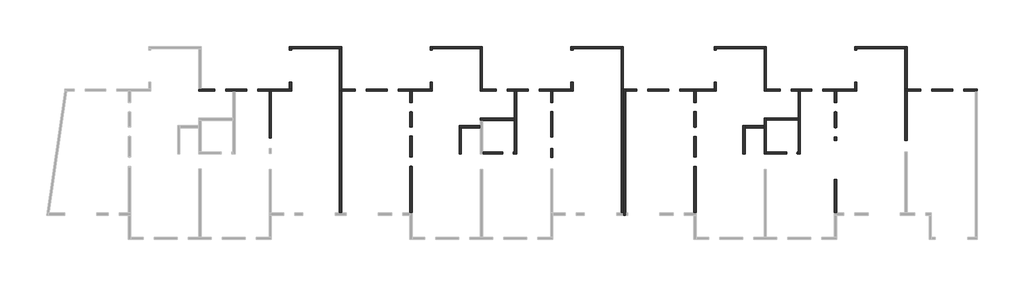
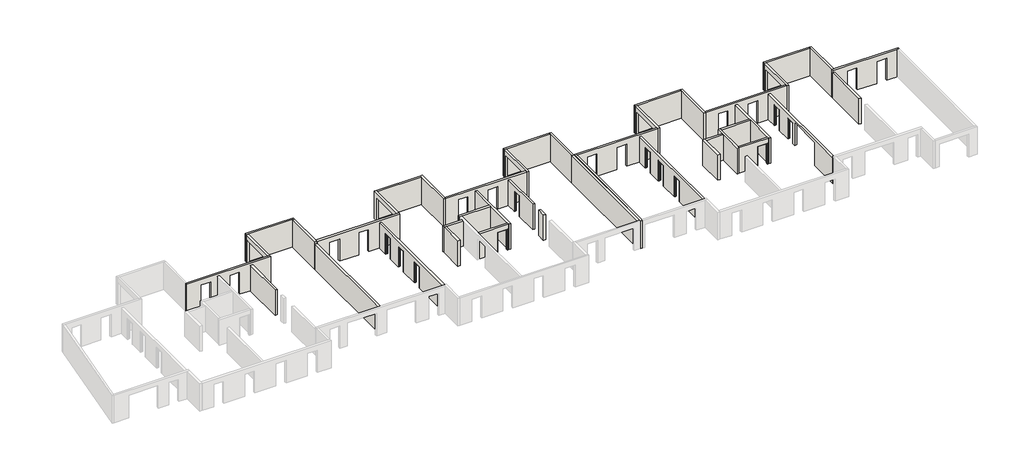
# One storey, part 2 of 2: 42 walls, 11 doors.
"""IFC4 building model written with IfcOpenShell, lengths in millimetres."""

from ifc_helpers import new_model, si_unit, frame, origin, place, context, project, spatial, polyline, outline, extrude, faceted_brep, transform, mapped, element, save
from components import door_48b161e2, door_a0d7bfd5

model = new_model("IFC4")

# Units and contexts
model_context = context("Model", 3, world=origin())
ifc_project = project(units=[si_unit("LENGTHUNIT", "METRE", prefix="MILLI")], contexts=[model_context])

# Site, building, storey
site = spatial("IfcSite", under=ifc_project)
building = spatial("IfcBuilding", under=site)
storey = spatial("IfcBuildingStorey", under=building, Name="Niv +1", Elevation=2700.0)

# Doors
placement = place(None, origin())
door_shape = door_48b161e2(model_context)
element("IfcDoor", 1, ObjectType="FREYS HUISSERIE A BANCHER : FREYS 83*2.035", at=placement, inside=storey, context=model_context, shape_type="MappedRepresentation", body=[
    mapped(door_shape, transform((-535.4687207, 4861.1247819, 2700.0), x_axis=(0.0, -1.0, 0.0), y_axis=(1.0, 0.0, 0.0), z_axis=(0.0, 0.0, 1.0))),
])
element("IfcDoor", 2, ObjectType="FREYS HUISSERIE A BANCHER : FREYS 83*2.035", at=placement, inside=storey, context=model_context, shape_type="MappedRepresentation", body=[
    mapped(door_shape, transform((-535.4687207, 2788.1542132, 2700.0), x_axis=(0.0, -1.0, 0.0), y_axis=(1.0, 0.0, 0.0), z_axis=(0.0, 0.0, 1.0))),
])
element("IfcDoor", 3, ObjectType="FREYS HUISSERIE A BANCHER : FREYS 83*2.035", at=placement, inside=storey, context=model_context, shape_type="MappedRepresentation", body=[
    mapped(door_shape, transform((-535.4687207, 211.1107168, 2700.0), x_axis=(0.0, -1.0, 0.0), y_axis=(1.0, 0.0, 0.0), z_axis=(0.0, 0.0, 1.0))),
])
element("IfcDoor", 4, ObjectType="FREYS HUISSERIE A BANCHER : FREYS 83*2.035", at=placement, inside=storey, context=model_context, shape_type="MappedRepresentation", body=[
    mapped(door_shape, transform((23664.5564317, 4876.1247664, 2700.0), x_axis=(0.0, -1.0, 0.0), y_axis=(1.0, 0.0, 0.0), z_axis=(0.0, 0.0, 1.0))),
])
element("IfcDoor", 5, ObjectType="FREYS HUISSERIE A BANCHER : FREYS 83*2.035", at=placement, inside=storey, context=model_context, shape_type="MappedRepresentation", body=[
    mapped(door_shape, transform((23664.5564317, 2756.1563277, 2700.0), x_axis=(0.0, -1.0, 0.0), y_axis=(1.0, 0.0, 0.0), z_axis=(0.0, 0.0, 1.0))),
])
element("IfcDoor", 6, ObjectType="FREYS HUISSERIE A BANCHER : FREYS 83*2.035", at=placement, inside=storey, context=model_context, shape_type="MappedRepresentation", body=[
    mapped(door_shape, transform((23664.5564317, 222.4877305, 2700.0), x_axis=(0.0, 1.0, 0.0), y_axis=(-1.0, 0.0, 0.0), z_axis=(0.0, 0.0, 1.0))),
])
element("IfcDoor", 7, ObjectType="FREYS HUISSERIE A BANCHER : FREYS 83*2.035", at=placement, inside=storey, context=model_context, shape_type="MappedRepresentation", body=[
    mapped(door_shape, transform((35664.5312786, 4863.6271318, 2700.0), x_axis=(0.0, -1.0, 0.0), y_axis=(1.0, 0.0, 0.0), z_axis=(0.0, 0.0, 1.0))),
])
element("IfcDoor", 8, ObjectType="FREYS HUISSERIE A BANCHER : FREYS 83*2.035", at=placement, inside=storey, context=model_context, shape_type="MappedRepresentation", body=[
    mapped(door_shape, transform((35664.5312786, 2710.1542618, 2700.0), x_axis=(0.0, -1.0, 0.0), y_axis=(1.0, 0.0, 0.0), z_axis=(0.0, 0.0, 1.0))),
])
element("IfcDoor", 9, ObjectType="FREYS HUISSERIE A BANCHER : FREYS 83*2.035", at=placement, inside=storey, context=model_context, shape_type="MappedRepresentation", body=[
    mapped(door_shape, transform((11464.5281637, 4876.2899672, 2700.0), x_axis=(0.0, -1.0, 0.0), y_axis=(1.0, 0.0, 0.0), z_axis=(0.0, 0.0, 1.0))),
])
door_2_shape = door_a0d7bfd5(model_context)
element("IfcDoor", 10, ObjectType="FREYS HUISSERIE A BANCHER : FREYS 93*2.035", at=placement, inside=storey, context=model_context, shape_type="MappedRepresentation", body=[
    mapped(door_2_shape, transform((7719.3181732, 946.3022753, 2700.0), x_axis=(-1.0, 0.0, 0.0), y_axis=(0.0, -1.0, 0.0), z_axis=(0.0, 0.0, 1.0))),
])
element("IfcDoor", 11, ObjectType="FREYS HUISSERIE A BANCHER : FREYS 93*2.035", at=placement, inside=storey, context=model_context, shape_type="MappedRepresentation", body=[
    mapped(door_2_shape, transform((31922.0230132, 946.3174361, 2700.0), x_axis=(-1.0, 0.0, 0.0), y_axis=(0.0, -1.0, 0.0), z_axis=(0.0, 0.0, 1.0))),
])

# Walls
element("IfcWall", 12, ObjectType="FREYS voile BA C25/30 ep=18 EXT", at=placement, inside=storey, context=model_context, shape_type="Brep", body=[
    faceted_brep([(-10725.0456065, 6246.3702418, 5400.0), (-18615.4433224, 6246.3702418, 5400.0), (-18615.4433224, 6246.3702418, 2700.0), (-17275.4417331, 6246.3702418, 2700.0), (-17275.4417331, 6246.3702418, 4880.0), (-16335.4417331, 6246.3702418, 4880.0), (-16335.4417331, 6246.3702418, 2700.0), (-15715.4423564, 6246.3702418, 2700.0), (-15535.4423564, 6246.3702418, 2700.0), (-14555.4425277, 6246.3702418, 2700.0), (-14555.4425277, 6246.3702418, 4880.0), (-13615.4425277, 6246.3702418, 4880.0), (-13615.4425277, 6246.3702418, 2700.0), (-12635.4687207, 6246.3702418, 2700.0), (-12435.4687207, 6246.3702418, 2700.0), (-10725.0456065, 6246.3702418, 2700.0), (-18615.4433224, 6426.3702418, 5400.0), (-18435.4433224, 6426.3702418, 5400.0), (-10905.0456065, 6426.3702418, 5400.0), (-10725.0456065, 6426.3702418, 5400.0), (-10725.0456065, 6426.3702418, 2700.0), (-10905.0456065, 6426.3702418, 2700.0), (-13615.4425277, 6426.3702418, 2700.0), (-13615.4425277, 6426.3702418, 4880.0), (-14555.4425277, 6426.3702418, 4880.0), (-14555.4425277, 6426.3702418, 2700.0), (-16335.4417331, 6426.3702418, 2700.0), (-16335.4417331, 6426.3702418, 4880.0), (-17275.4417331, 6426.3702418, 4880.0), (-17275.4417331, 6426.3702418, 2700.0), (-18435.4433224, 6426.3702418, 2700.0), (-18615.4433224, 6426.3702418, 2700.0)], [[[0, 1, 2, 3, 4, 5, 6, 7, 8, 9, 10, 11, 12, 13, 14, 15]], [[16, 17, 18, 19, 20, 21, 22, 23, 24, 25, 26, 27, 28, 29, 30, 31]], [[2, 31, 30, 29, 3]], [[20, 15, 14, 13, 12, 22, 21]], [[6, 26, 25, 9, 8, 7]], [[1, 0, 19, 18, 17, 16]], [[2, 1, 16, 31]], [[0, 15, 20, 19]], [[5, 27, 26, 6]], [[28, 4, 3, 29]], [[27, 5, 4, 28]], [[11, 23, 22, 12]], [[24, 10, 9, 25]], [[23, 11, 10, 24]]]),
])
element("IfcWall", 13, ObjectType="FREYS voile BA C25/30 ep=18 EXT", at=placement, inside=storey, context=model_context, shape_type="Brep", body=[
    faceted_brep([(5374.5566776, 10056.3428653, 2700.0), (5374.5566776, 9876.3428653, 2700.0), (5374.5566776, 6246.3428699, 2700.0), (5374.5566776, 6246.3428699, 5400.0), (5374.5566776, 9876.3428653, 5400.0), (5374.5566776, 10056.3428653, 5400.0), (5554.5566776, 10056.3428653, 2700.0), (5554.5566776, 10056.3428653, 5400.0), (5554.5566776, 6426.3428699, 5400.0), (5554.5566776, 6246.3428699, 5400.0), (5554.5566776, 6246.3428699, 2700.0), (5554.5566776, 6426.3428699, 2700.0)], [[[0, 1, 2, 3, 4, 5]], [[6, 7, 8, 9, 10, 11]], [[2, 1, 0, 6, 11, 10]], [[5, 4, 3, 9, 8, 7]], [[3, 2, 10, 9]], [[0, 5, 7, 6]]]),
])
element("IfcWall", 14, ObjectType="FREYS voile BA C25/30 ep=18 EXT", at=placement, inside=storey, context=model_context, shape_type="Brep", body=[
    faceted_brep([(17374.5566776, 10056.3428699, 2700.0), (17374.5566776, 9876.3428699, 2700.0), (17374.5566776, 6426.3428699, 2700.0), (17374.5566776, 6426.3428699, 5400.0), (17374.5566776, 9876.3428699, 5400.0), (17374.5566776, 10056.3428699, 5400.0), (17554.5566776, 10056.3428699, 2700.0), (17554.5566776, 10056.3428699, 5400.0), (17554.5566776, 6426.3428699, 5400.0), (17554.5566776, 6426.3428699, 2700.0)], [[[0, 1, 2, 3, 4, 5]], [[6, 7, 8, 9]], [[2, 1, 0, 6, 9]], [[3, 2, 9, 8]], [[5, 4, 3, 8, 7]], [[0, 5, 7, 6]]]),
])
element("IfcWall", 15, ObjectType="FREYS voile BA C25/30 ep=18 INT", at=placement, inside=storey, context=model_context, shape_type="Brep", body=[
    faceted_brep([(17594.5566776, 6426.3428699, 2700.0), (17594.5566776, -4353.682553, 2700.0), (17594.5566776, -4353.682553, 5400.0), (17594.5566776, 6426.3428699, 5400.0), (17774.5566776, 6426.3428699, 2700.0), (17774.5566776, 6426.3428699, 5400.0), (17774.5566776, 6246.3428699, 5400.0), (17774.5566776, -4173.682553, 5400.0), (17774.5566776, -4353.682553, 5400.0), (17774.5566776, -4353.682553, 2700.0), (17774.5566776, -4173.682553, 2700.0), (17774.5566776, 6246.3428699, 2700.0)], [[[0, 1, 2, 3]], [[4, 5, 6, 7, 8, 9, 10, 11]], [[1, 0, 4, 11, 10, 9]], [[3, 2, 8, 7, 6, 5]], [[2, 1, 9, 8]], [[0, 3, 5, 4]]]),
])
element("IfcWall", 16, ObjectType="FREYS voile BA C25/30 ep=20 INT", at=placement, inside=storey, context=model_context, shape_type="SweptSolid", body=[
    extrude(outline(polyline([(2349.3449844, 2700.0), (629.2990738, 2700.0), (629.2990738, 4735.0), (-200.7009262, 4735.0), (-200.7009262, 2700.0), (-4163.6571301, 2700.0), (-4163.6571301, 5200.0), (6246.3428699, 5200.0), (6246.3428699, 2700.0), (5299.3134231, 2700.0), (5299.3134231, 4735.0), (4469.3134231, 4735.0), (4469.3134231, 2700.0), (3179.3449844, 2700.0), (3179.3449844, 4735.0), (2349.3449844, 4735.0), (2349.3449844, 2700.0)])), frame((23564.5564317, 0.0, 0.0), z_axis=(1.0, 0.0, 0.0), x_axis=(0.0, 1.0, 0.0)), (0.0, 0.0, 1.0), 200.0),
])
element("IfcWall", 17, ObjectType="FREYS voile BA C25/30 ep=20 INT", at=placement, inside=storey, context=model_context, shape_type="Brep", body=[
    faceted_brep([(27964.5312756, 856.3174386, 2700.0), (27964.5312756, 3086.3428384, 2700.0), (27964.5312756, 3286.3428384, 2700.0), (27964.5312756, 3286.3428384, 5200.0), (27964.5312756, 3086.3428384, 5200.0), (27964.5312756, 856.3174386, 5200.0), (27764.5312756, 856.3174386, 2700.0), (27764.5312756, 856.3174386, 5200.0), (27764.5312756, 3286.3428384, 5200.0), (27764.5312756, 3286.3428384, 2700.0)], [[[0, 1, 2, 3, 4, 5]], [[6, 7, 8, 9]], [[2, 1, 0, 6, 9]], [[5, 4, 3, 8, 7]], [[0, 5, 7, 6]], [[3, 2, 9, 8]]]),
])
element("IfcWall", 18, ObjectType="FREYS voile BA C25/30 ep=20 INT", at=placement, inside=storey, context=model_context, shape_type="SweptSolid", body=[
    extrude(outline(polyline([(29564.5058756, 3086.3428384), (27964.5312756, 3086.3428384), (27964.5312756, 3286.3428384), (29564.5058756, 3286.3428384), (29564.5058756, 3086.3428384)])), frame((0.0, 0.0, 2700.0), z_axis=(0.0, 0.0, 1.0), x_axis=(1.0, 0.0, 0.0)), (0.0, 0.0, 1.0), 2500.0),
])
element("IfcWall", 19, ObjectType="FREYS voile BA C25/30 ep=20 INT", at=placement, inside=storey, context=model_context, shape_type="Brep", body=[
    faceted_brep([(29764.5058756, 856.3174361, 2700.0), (29764.5058756, 1036.3174361, 2700.0), (29764.5058756, 3756.3174386, 2700.0), (29764.5058756, 3936.3174386, 2700.0), (29764.5058756, 3936.3174386, 5200.0), (29764.5058756, 3756.3174386, 5200.0), (29764.5058756, 1036.3174361, 5200.0), (29764.5058756, 856.3174361, 5200.0), (29564.5058756, 856.3174361, 2700.0), (29564.5058756, 856.3174361, 5200.0), (29564.5058756, 3086.3428384, 5200.0), (29564.5058756, 3286.3428384, 5200.0), (29564.5058756, 3936.3174386, 5200.0), (29564.5058756, 3936.3174386, 2700.0), (29564.5058756, 3286.3428384, 2700.0), (29564.5058756, 3086.3428384, 2700.0)], [[[0, 1, 2, 3, 4, 5, 6, 7]], [[8, 9, 10, 11, 12, 13, 14, 15]], [[3, 2, 1, 0, 8, 15, 14, 13]], [[7, 6, 5, 4, 12, 11, 10, 9]], [[0, 7, 9, 8]], [[4, 3, 13, 12]]]),
])
element("IfcWall", 20, ObjectType="FREYS voile BA C25/30 ep=18 EXT", at=placement, inside=storey, context=model_context, shape_type="Brep", body=[
    faceted_brep([(29584.5566776, 10054.7647075, 2700.0), (29584.5566776, 9874.7647075, 2700.0), (29584.5566776, 6246.3428699, 2700.0), (29584.5566776, 6246.3428699, 5400.0), (29584.5566776, 9874.7647075, 5400.0), (29584.5566776, 10054.7647075, 5400.0), (29764.5566776, 10054.7647075, 2700.0), (29764.5566776, 10054.7647075, 5400.0), (29764.5566776, 6426.3428699, 5400.0), (29764.5566776, 6246.3428699, 5400.0), (29764.5566776, 6246.3428699, 2700.0), (29764.5566776, 6426.3428699, 2700.0)], [[[0, 1, 2, 3, 4, 5]], [[6, 7, 8, 9, 10, 11]], [[2, 1, 0, 6, 11, 10]], [[5, 4, 3, 9, 8, 7]], [[3, 2, 10, 9]], [[0, 5, 7, 6]]]),
])
element("IfcWall", 21, ObjectType="FREYS voile BA C25/30 ep=20 EXT", at=placement, inside=storey, context=model_context, shape_type="Brep", body=[
    faceted_brep([(41564.5566776, 10056.3428653, 2700.0), (41564.5566776, 9876.3428653, 2700.0), (41564.5566776, 6426.3428699, 2700.0), (41564.5566776, 6426.3428699, 5400.0), (41564.5566776, 9876.3428653, 5400.0), (41564.5566776, 10056.3428653, 5400.0), (41764.5566776, 10056.3428653, 2700.0), (41764.5566776, 10056.3428653, 5400.0), (41764.5566776, 6426.3428699, 5400.0), (41764.5566776, 6426.3428699, 2700.0)], [[[0, 1, 2, 3, 4, 5]], [[6, 7, 8, 9]], [[2, 1, 0, 6, 9]], [[5, 4, 3, 8, 7]], [[0, 5, 7, 6]], [[3, 2, 9, 8]]]),
])
element("IfcWall", 22, ObjectType="FREYS voile BA C25/30 ep=18 EXT", at=placement, inside=storey, context=model_context, shape_type="Brep", body=[
    faceted_brep([(41564.5566776, 6426.3428699, 5400.0), (41764.5566776, 6426.3428699, 5400.0), (47754.5312794, 6426.3428699, 5400.0), (47754.5312794, 6426.3428699, 2700.0), (46584.5574723, 6426.3428699, 2700.0), (46584.5574723, 6426.3428699, 4880.0), (45644.5574723, 6426.3428699, 4880.0), (45644.5574723, 6426.3428699, 2700.0), (43864.558267, 6426.3428699, 2700.0), (43864.558267, 6426.3428699, 4880.0), (42924.558267, 6426.3428699, 4880.0), (42924.558267, 6426.3428699, 2700.0), (41764.5566776, 6426.3428699, 2700.0), (41564.5566776, 6426.3428699, 2700.0), (47754.5312794, 6246.3428699, 5400.0), (41564.5566776, 6246.3428699, 5400.0), (41564.5566776, 6246.3428699, 2700.0), (42924.558267, 6246.3428699, 2700.0), (42924.558267, 6246.3428699, 4880.0), (43864.558267, 6246.3428699, 4880.0), (43864.558267, 6246.3428699, 2700.0), (45644.5574723, 6246.3428699, 2700.0), (45644.5574723, 6246.3428699, 4880.0), (46584.5574723, 6246.3428699, 4880.0), (46584.5574723, 6246.3428699, 2700.0), (47754.5312794, 6246.3428699, 2700.0)], [[[0, 1, 2, 3, 4, 5, 6, 7, 8, 9, 10, 11, 12, 13]], [[14, 15, 16, 17, 18, 19, 20, 21, 22, 23, 24, 25]], [[3, 25, 24, 4]], [[16, 13, 12, 11, 17]], [[20, 8, 7, 21]], [[2, 1, 0, 15, 14]], [[3, 2, 14, 25]], [[0, 13, 16, 15]], [[19, 9, 8, 20]], [[10, 18, 17, 11]], [[9, 19, 18, 10]], [[6, 22, 21, 7]], [[23, 5, 4, 24]], [[22, 6, 5, 23]]]),
])
element("IfcWall", 23, ObjectType="FREYS voile BA C25/30 ep=18 EXT", at=placement, inside=storey, context=model_context, shape_type="Brep", body=[
    faceted_brep([(41564.5566776, 10056.3428653, 2700.0), (37294.5566776, 10056.3428653, 2700.0), (37294.5566776, 10056.3428653, 5400.0), (41564.5566776, 10056.3428653, 5400.0), (41564.5566776, 9876.3428653, 2700.0), (41564.5566776, 9876.3428653, 5400.0), (37474.5566776, 9876.3428653, 5400.0), (37294.5566776, 9876.3428653, 5400.0), (37294.5566776, 9876.3428653, 2700.0), (37474.5566776, 9876.3428653, 2700.0)], [[[0, 1, 2, 3]], [[4, 5, 6, 7, 8, 9]], [[1, 0, 4, 9, 8]], [[3, 2, 7, 6, 5]], [[0, 3, 5, 4]], [[2, 1, 8, 7]]]),
])
element("IfcWall", 24, ObjectType="FREYS voile BA C25/30 ep=18 EXT", at=placement, inside=storey, context=model_context, shape_type="Brep", body=[
    faceted_brep([(37294.5566776, 7006.3428653, 4930.0), (37294.5566776, 7006.3428653, 2700.0), (37294.5566776, 6426.3428699, 2700.0), (37294.5566776, 6246.3428699, 2700.0), (37294.5566776, 6246.3428699, 5400.0), (37294.5566776, 6426.3428699, 5400.0), (37294.5566776, 9876.3428653, 5400.0), (37294.5566776, 9876.3428653, 2700.0), (37294.5566776, 9746.3428653, 2700.0), (37294.5566776, 9746.3428653, 4930.0), (37474.5566776, 6246.3428699, 2700.0), (37474.5566776, 7006.3428653, 2700.0), (37474.5566776, 7006.3428653, 4930.0), (37474.5566776, 9746.3428653, 4930.0), (37474.5566776, 9746.3428653, 2700.0), (37474.5566776, 9876.3428653, 2700.0), (37474.5566776, 9876.3428653, 5400.0), (37474.5566776, 6246.3428699, 5400.0)], [[[0, 1, 2, 3, 4, 5, 6, 7, 8, 9]], [[10, 11, 12, 13, 14, 15, 16, 17]], [[8, 7, 15, 14]], [[3, 2, 1, 11, 10]], [[6, 5, 4, 17, 16]], [[7, 6, 16, 15]], [[4, 3, 10, 17]], [[14, 13, 9, 8]], [[12, 11, 1, 0]], [[13, 12, 0, 9]]]),
])
element("IfcWall", 25, ObjectType="FREYS voile BA C25/30 ep=18 EXT", at=placement, inside=storey, context=model_context, shape_type="Brep", body=[
    faceted_brep([(29764.5566776, 6426.3428699, 5400.0), (37294.5566776, 6426.3428699, 5400.0), (37294.5566776, 6426.3428699, 2700.0), (34584.5574723, 6426.3428699, 2700.0), (34584.5574723, 6426.3428699, 4880.0), (33644.5574723, 6426.3428699, 4880.0), (33644.5574723, 6426.3428699, 2700.0), (31864.558267, 6426.3428699, 2700.0), (31864.558267, 6426.3428699, 4880.0), (30924.558267, 6426.3428699, 4880.0), (30924.558267, 6426.3428699, 2700.0), (29764.5566776, 6426.3428699, 2700.0), (37294.5566776, 6246.3428699, 5400.0), (29764.5566776, 6246.3428699, 5400.0), (29764.5566776, 6246.3428699, 2700.0), (30924.558267, 6246.3428699, 2700.0), (30924.558267, 6246.3428699, 4880.0), (31864.558267, 6246.3428699, 4880.0), (31864.558267, 6246.3428699, 2700.0), (32484.5576436, 6246.3428699, 2700.0), (32664.5576436, 6246.3428699, 2700.0), (33644.5574723, 6246.3428699, 2700.0), (33644.5574723, 6246.3428699, 4880.0), (34584.5574723, 6246.3428699, 4880.0), (34584.5574723, 6246.3428699, 2700.0), (35564.5312786, 6246.3428699, 2700.0), (35764.5312786, 6246.3428699, 2700.0), (37294.5566776, 6246.3428699, 2700.0)], [[[0, 1, 2, 3, 4, 5, 6, 7, 8, 9, 10, 11]], [[12, 13, 14, 15, 16, 17, 18, 19, 20, 21, 22, 23, 24, 25, 26, 27]], [[2, 27, 26, 25, 24, 3]], [[14, 11, 10, 15]], [[18, 7, 6, 21, 20, 19]], [[1, 0, 13, 12]], [[2, 1, 12, 27]], [[0, 11, 14, 13]], [[9, 16, 15, 10]], [[17, 8, 7, 18]], [[16, 9, 8, 17]], [[5, 22, 21, 6]], [[23, 4, 3, 24]], [[22, 5, 4, 23]]]),
])
element("IfcWall", 26, ObjectType="FREYS voile BA C25/30 ep=18 INT", at=placement, inside=storey, context=model_context, shape_type="Brep", body=[
    faceted_brep([(32484.5576436, 6246.3428699, 2700.0), (32484.5576436, 3936.3174386, 2700.0), (32484.5576436, 3756.3174386, 2700.0), (32484.5576436, 1036.3174361, 2700.0), (32484.5576436, 856.3174361, 2700.0), (32484.5576436, 856.3174361, 5200.0), (32484.5576436, 1036.3174361, 5200.0), (32484.5576436, 3756.3174386, 5200.0), (32484.5576436, 3936.3174386, 5200.0), (32484.5576436, 6246.3428699, 5200.0), (32664.5576436, 6246.3428699, 2700.0), (32664.5576436, 6246.3428699, 5200.0), (32664.5576436, 856.3174361, 5200.0), (32664.5576436, 856.3174361, 2700.0)], [[[0, 1, 2, 3, 4, 5, 6, 7, 8, 9]], [[10, 11, 12, 13]], [[4, 3, 2, 1, 0, 10, 13]], [[9, 8, 7, 6, 5, 12, 11]], [[0, 9, 11, 10]], [[5, 4, 13, 12]]]),
])
element("IfcWall", 27, ObjectType="FREYS voile BA C25/30 ep=18 INT", at=placement, inside=storey, context=model_context, shape_type="SweptSolid", body=[
    extrude(outline(polyline([(2700.0, 29764.5058756), (2700.0, 31465.2116699), (4735.0, 31465.2116699), (4735.0, 32395.2116699), (2700.0, 32395.2116699), (2700.0, 32484.5576436), (5200.0, 32484.5576436), (5200.0, 29764.5058756), (2700.0, 29764.5058756)])), frame((0.0, 856.3174361, 0.0), z_axis=(0.0, 1.0, 0.0), x_axis=(0.0, 0.0, 1.0)), (0.0, 0.0, 1.0), 180.0),
])
element("IfcWall", 28, ObjectType="FREYS voile BA C25/30 ep=18 INT", at=placement, inside=storey, context=model_context, shape_type="SweptSolid", body=[
    extrude(outline(polyline([(32484.5576436, 3756.3174386), (29764.5058756, 3756.3174386), (29764.5058756, 3936.3174386), (32484.5576436, 3936.3174386), (32484.5576436, 3756.3174386)])), frame((0.0, 0.0, 2700.0), z_axis=(0.0, 0.0, 1.0), x_axis=(1.0, 0.0, 0.0)), (0.0, 0.0, 1.0), 2500.0),
])
element("IfcWall", 29, ObjectType="FREYS voile BA C25/30 ep=18 EXT", at=placement, inside=storey, context=model_context, shape_type="Brep", body=[
    faceted_brep([(29584.5566776, 10054.7647075, 2700.0), (25294.556849, 10054.7647075, 2700.0), (25294.556849, 10054.7647075, 5400.0), (29584.5566776, 10054.7647075, 5400.0), (29584.5566776, 9874.7647075, 2700.0), (29584.5566776, 9874.7647075, 5400.0), (25474.556849, 9874.7647075, 5400.0), (25294.556849, 9874.7647075, 5400.0), (25294.556849, 9874.7647075, 2700.0), (25474.556849, 9874.7647075, 2700.0)], [[[0, 1, 2, 3]], [[4, 5, 6, 7, 8, 9]], [[1, 0, 4, 9, 8]], [[3, 2, 7, 6, 5]], [[0, 3, 5, 4]], [[2, 1, 8, 7]]]),
])
element("IfcWall", 30, ObjectType="FREYS voile BA C25/30 ep=18 EXT", at=placement, inside=storey, context=model_context, shape_type="Brep", body=[
    faceted_brep([(25294.556849, 6246.3428699, 5400.0), (25294.556849, 6426.3428699, 5400.0), (25294.556849, 9874.7647075, 5400.0), (25294.556849, 9874.7647075, 2700.0), (25294.556849, 9746.3428651, 2700.0), (25294.556849, 9746.3428651, 4930.0), (25294.556849, 7006.3428651, 4930.0), (25294.556849, 7006.3428651, 2700.0), (25294.556849, 6426.3428699, 2700.0), (25294.556849, 6246.3428699, 2700.0), (25474.556849, 9874.7647075, 5400.0), (25474.556849, 6246.3428699, 5400.0), (25474.556849, 6246.3428699, 2700.0), (25474.556849, 7006.3428651, 2700.0), (25474.556849, 7006.3428651, 4930.0), (25474.556849, 9746.3428651, 4930.0), (25474.556849, 9746.3428651, 2700.0), (25474.556849, 9874.7647075, 2700.0)], [[[0, 1, 2, 3, 4, 5, 6, 7, 8, 9]], [[10, 11, 12, 13, 14, 15, 16, 17]], [[3, 17, 16, 4]], [[12, 9, 8, 7, 13]], [[2, 1, 0, 11, 10]], [[3, 2, 10, 17]], [[0, 9, 12, 11]], [[6, 14, 13, 7]], [[14, 6, 5, 15]], [[15, 5, 4, 16]]]),
])
element("IfcWall", 31, ObjectType="FREYS voile BA C25/30 ep=18 EXT", at=placement, inside=storey, context=model_context, shape_type="Brep", body=[
    faceted_brep([(17774.5566776, 6426.3428699, 5400.0), (25294.556849, 6426.3428699, 5400.0), (25294.556849, 6426.3428699, 2700.0), (22384.5574723, 6426.3428699, 2700.0), (22384.5574723, 6426.3428699, 4880.0), (21444.5574723, 6426.3428699, 4880.0), (21444.5574723, 6426.3428699, 2700.0), (19664.558267, 6426.3428699, 2700.0), (19664.558267, 6426.3428699, 4880.0), (18724.558267, 6426.3428699, 4880.0), (18724.558267, 6426.3428699, 2700.0), (17774.5566776, 6426.3428699, 2700.0), (25294.556849, 6246.3428699, 5400.0), (17774.5566776, 6246.3428699, 5400.0), (17774.5566776, 6246.3428699, 2700.0), (18724.558267, 6246.3428699, 2700.0), (18724.558267, 6246.3428699, 4880.0), (19664.558267, 6246.3428699, 4880.0), (19664.558267, 6246.3428699, 2700.0), (21444.5574723, 6246.3428699, 2700.0), (21444.5574723, 6246.3428699, 4880.0), (22384.5574723, 6246.3428699, 4880.0), (22384.5574723, 6246.3428699, 2700.0), (23564.5564317, 6246.3428699, 2700.0), (23764.5564317, 6246.3428699, 2700.0), (25294.556849, 6246.3428699, 2700.0)], [[[0, 1, 2, 3, 4, 5, 6, 7, 8, 9, 10, 11]], [[12, 13, 14, 15, 16, 17, 18, 19, 20, 21, 22, 23, 24, 25]], [[2, 25, 24, 23, 22, 3]], [[14, 11, 10, 15]], [[18, 7, 6, 19]], [[1, 0, 13, 12]], [[2, 1, 12, 25]], [[0, 11, 14, 13]], [[9, 16, 15, 10]], [[17, 8, 7, 18]], [[16, 9, 8, 17]], [[5, 20, 19, 6]], [[21, 4, 3, 22]], [[20, 5, 4, 21]]]),
])
element("IfcWall", 32, ObjectType="FREYS voile BA C25/30 ep=18 EXT", at=placement, inside=storey, context=model_context, shape_type="Brep", body=[
    faceted_brep([(17374.5566776, 10056.3428699, 2700.0), (13095.4308018, 10056.3428699, 2700.0), (13095.4308018, 10056.3428699, 5400.0), (17374.5566776, 10056.3428699, 5400.0), (17374.5566776, 9876.3428699, 2700.0), (17374.5566776, 9876.3428699, 5400.0), (13275.4308018, 9876.3428699, 5400.0), (13095.4308018, 9876.3428699, 5400.0), (13095.4308018, 9876.3428699, 2700.0), (13275.4308018, 9876.3428699, 2700.0)], [[[0, 1, 2, 3]], [[4, 5, 6, 7, 8, 9]], [[1, 0, 4, 9, 8]], [[3, 2, 7, 6, 5]], [[0, 3, 5, 4]], [[2, 1, 8, 7]]]),
])
element("IfcWall", 33, ObjectType="FREYS voile BA C25/30 ep=18 EXT", at=placement, inside=storey, context=model_context, shape_type="Brep", body=[
    faceted_brep([(13095.4308018, 7006.3428653, 4930.0), (13095.4308018, 7006.3428653, 2700.0), (13095.4308018, 6426.3428699, 2700.0), (13095.4308018, 6246.3428699, 2700.0), (13095.4308018, 6246.3428699, 5400.0), (13095.4308018, 6426.3428699, 5400.0), (13095.4308018, 9876.3428699, 5400.0), (13095.4308018, 9876.3428699, 2700.0), (13095.4308018, 9746.3428653, 2700.0), (13095.4308018, 9746.3428653, 4930.0), (13275.4308018, 6246.3428699, 2700.0), (13275.4308018, 7006.3428653, 2700.0), (13275.4308018, 7006.3428653, 4930.0), (13275.4308018, 9746.3428653, 4930.0), (13275.4308018, 9746.3428653, 2700.0), (13275.4308018, 9876.3428699, 2700.0), (13275.4308018, 9876.3428699, 5400.0), (13275.4308018, 6246.3428699, 5400.0)], [[[0, 1, 2, 3, 4, 5, 6, 7, 8, 9]], [[10, 11, 12, 13, 14, 15, 16, 17]], [[8, 7, 15, 14]], [[3, 2, 1, 11, 10]], [[6, 5, 4, 17, 16]], [[7, 6, 16, 15]], [[4, 3, 10, 17]], [[14, 13, 9, 8]], [[12, 11, 1, 0]], [[13, 12, 0, 9]]]),
])
element("IfcWall", 34, ObjectType="FREYS voile BA C25/30 ep=18 EXT", at=placement, inside=storey, context=model_context, shape_type="Brep", body=[
    faceted_brep([(5554.5566776, 6426.3428699, 5400.0), (13095.4308018, 6426.3428699, 5400.0), (13095.4308018, 6426.3428699, 2700.0), (10384.5574723, 6426.3428699, 2700.0), (10384.5574723, 6426.3428699, 4880.0), (9444.5574723, 6426.3428699, 4880.0), (9444.5574723, 6426.3428699, 2700.0), (7664.558267, 6426.3428699, 2700.0), (7664.558267, 6426.3428699, 4880.0), (6724.558267, 6426.3428699, 4880.0), (6724.558267, 6426.3428699, 2700.0), (5554.5566776, 6426.3428699, 2700.0), (13095.4308018, 6246.3428699, 5400.0), (5554.5566776, 6246.3428699, 5400.0), (5554.5566776, 6246.3428699, 2700.0), (6724.558267, 6246.3428699, 2700.0), (6724.558267, 6246.3428699, 4880.0), (7664.558267, 6246.3428699, 4880.0), (7664.558267, 6246.3428699, 2700.0), (8282.6226054, 6246.3428699, 2700.0), (8462.6226054, 6246.3428699, 2700.0), (9444.5574723, 6246.3428699, 2700.0), (9444.5574723, 6246.3428699, 4880.0), (10384.5574723, 6246.3428699, 4880.0), (10384.5574723, 6246.3428699, 2700.0), (11364.5281637, 6246.3428699, 2700.0), (11564.5281637, 6246.3428699, 2700.0), (13095.4308018, 6246.3428699, 2700.0)], [[[0, 1, 2, 3, 4, 5, 6, 7, 8, 9, 10, 11]], [[12, 13, 14, 15, 16, 17, 18, 19, 20, 21, 22, 23, 24, 25, 26, 27]], [[2, 27, 26, 25, 24, 3]], [[14, 11, 10, 15]], [[18, 7, 6, 21, 20, 19]], [[1, 0, 13, 12]], [[2, 1, 12, 27]], [[0, 11, 14, 13]], [[17, 8, 7, 18]], [[9, 16, 15, 10]], [[8, 17, 16, 9]], [[23, 4, 3, 24]], [[5, 22, 21, 6]], [[4, 23, 22, 5]]]),
])
element("IfcWall", 35, ObjectType="FREYS voile BA C25/30 ep=18 INT", at=placement, inside=storey, context=model_context, shape_type="Brep", body=[
    faceted_brep([(8282.6226054, 6246.3428699, 2700.0), (8282.6226054, 3936.3174518, 2700.0), (8282.6226054, 3736.3174518, 2700.0), (8282.6226054, 1036.3022753, 2700.0), (8282.6226054, 856.3022753, 2700.0), (8282.6226054, 856.3022753, 5200.0), (8282.6226054, 1036.3022753, 5200.0), (8282.6226054, 3736.3174518, 5200.0), (8282.6226054, 3936.3174518, 5200.0), (8282.6226054, 6246.3428699, 5200.0), (8462.6226054, 6246.3428699, 2700.0), (8462.6226054, 6246.3428699, 5200.0), (8462.6226054, 856.3022753, 5200.0), (8462.6226054, 856.3022753, 2700.0)], [[[0, 1, 2, 3, 4, 5, 6, 7, 8, 9]], [[10, 11, 12, 13]], [[4, 3, 2, 1, 0, 10, 13]], [[9, 8, 7, 6, 5, 12, 11]], [[0, 9, 11, 10]], [[5, 4, 13, 12]]]),
])
element("IfcWall", 36, ObjectType="FREYS voile BA C25/30 ep=18 INT", at=placement, inside=storey, context=model_context, shape_type="Brep", body=[
    faceted_brep([(7262.5068299, 1036.3022753, 4735.0), (7262.5068299, 1036.3022753, 2700.0), (5564.5312777, 1036.3022753, 2700.0), (5564.5312777, 1036.3022753, 5200.0), (8282.6226054, 1036.3022753, 5200.0), (8282.6226054, 1036.3022753, 2700.0), (8192.5068299, 1036.3022753, 2700.0), (8192.5068299, 1036.3022753, 4735.0), (5564.5312777, 856.3022753, 2700.0), (7262.5068299, 856.3022753, 2700.0), (7262.5068299, 856.3022753, 4735.0), (8192.5068299, 856.3022753, 4735.0), (8192.5068299, 856.3022753, 2700.0), (8282.6226054, 856.3022753, 2700.0), (8282.6226054, 856.3022753, 5200.0), (5564.5312777, 856.3022753, 5200.0), (5564.5312777, 856.3022753, 4790.0)], [[[0, 1, 2, 3, 4, 5, 6, 7]], [[8, 9, 10, 11, 12, 13, 14, 15, 16]], [[6, 5, 13, 12]], [[2, 1, 9, 8]], [[4, 3, 15, 14]], [[5, 4, 14, 13]], [[3, 2, 8, 16, 15]], [[12, 11, 7, 6]], [[10, 9, 1, 0]], [[11, 10, 0, 7]]]),
])
element("IfcWall", 37, ObjectType="FREYS voile BA C25/30 ep=18 EXT", at=placement, inside=storey, context=model_context, shape_type="Brep", body=[
    faceted_brep([(1274.556849, 6246.3428699, 5400.0), (-6435.4433224, 6246.3428699, 5400.0), (-6435.4433224, 6246.3428699, 2700.0), (-5275.4415616, 6246.3428699, 2700.0), (-5275.4415616, 6246.3428699, 4880.0), (-4335.4415616, 6246.3428699, 4880.0), (-4335.4415616, 6246.3428699, 2700.0), (-2555.4423563, 6246.3428699, 2700.0), (-2555.4423563, 6246.3428699, 4880.0), (-1615.4423563, 6246.3428699, 4880.0), (-1615.4423563, 6246.3428699, 2700.0), (-635.4687207, 6246.3428699, 2700.0), (-435.4687207, 6246.3428699, 2700.0), (1274.556849, 6246.3428699, 2700.0), (-6435.4433224, 6426.3428699, 5400.0), (1094.556849, 6426.3428699, 5400.0), (1274.556849, 6426.3428699, 5400.0), (1274.556849, 6426.3428699, 2700.0), (1094.556849, 6426.3428699, 2700.0), (-1615.4423563, 6426.3428699, 2700.0), (-1615.4423563, 6426.3428699, 4880.0), (-2555.4423563, 6426.3428699, 4880.0), (-2555.4423563, 6426.3428699, 2700.0), (-4335.4415616, 6426.3428699, 2700.0), (-4335.4415616, 6426.3428699, 4880.0), (-5275.4415616, 6426.3428699, 4880.0), (-5275.4415616, 6426.3428699, 2700.0), (-6435.4433224, 6426.3428699, 2700.0)], [[[0, 1, 2, 3, 4, 5, 6, 7, 8, 9, 10, 11, 12, 13]], [[14, 15, 16, 17, 18, 19, 20, 21, 22, 23, 24, 25, 26, 27]], [[17, 13, 12, 11, 10, 19, 18]], [[3, 2, 27, 26]], [[6, 23, 22, 7]], [[1, 0, 16, 15, 14]], [[0, 13, 17, 16]], [[25, 4, 3, 26]], [[5, 24, 23, 6]], [[4, 25, 24, 5]], [[21, 8, 7, 22]], [[9, 20, 19, 10]], [[8, 21, 20, 9]], [[2, 1, 14, 27]]]),
])
element("IfcWall", 38, ObjectType="FREYS voile BA C25/30 ep=18 EXT", at=placement, inside=storey, context=model_context, shape_type="Brep", body=[
    faceted_brep([(1274.556849, 10056.3428653, 5400.0), (1274.556849, 9876.3428653, 5400.0), (1274.556849, 6426.3428699, 5400.0), (1274.556849, 6426.3428699, 2700.0), (1274.556849, 7006.3428651, 2700.0), (1274.556849, 7006.3428651, 4930.0), (1274.556849, 9746.3428651, 4930.0), (1274.556849, 9746.3428651, 2700.0), (1274.556849, 9876.3428653, 2700.0), (1274.556849, 10056.3428653, 2700.0), (1094.556849, 6426.3428699, 5400.0), (1094.556849, 10056.3428653, 5400.0), (1094.556849, 10056.3428653, 2700.0), (1094.556849, 9746.3428651, 2700.0), (1094.556849, 9746.3428651, 4930.0), (1094.556849, 7006.3428651, 4930.0), (1094.556849, 7006.3428651, 2700.0), (1094.556849, 6426.3428699, 2700.0)], [[[0, 1, 2, 3, 4, 5, 6, 7, 8, 9]], [[10, 11, 12, 13, 14, 15, 16, 17]], [[3, 17, 16, 4]], [[12, 9, 8, 7, 13]], [[2, 1, 0, 11, 10]], [[3, 2, 10, 17]], [[0, 9, 12, 11]], [[6, 14, 13, 7]], [[14, 6, 5, 15]], [[15, 5, 4, 16]]]),
])
element("IfcWall", 39, ObjectType="FREYS voile BA C25/30 ep=18 EXT", at=placement, inside=storey, context=model_context, shape_type="SweptSolid", body=[
    extrude(outline(polyline([(5374.5566776, 9876.3428653), (1274.556849, 9876.3428653), (1274.556849, 10056.3428653), (5374.5566776, 10056.3428653), (5374.5566776, 9876.3428653)])), frame((0.0, 0.0, 2700.0), z_axis=(0.0, 0.0, 1.0), x_axis=(1.0, 0.0, 0.0)), (0.0, 0.0, 1.0), 2700.0),
])
element("IfcWall", 40, ObjectType="FREYS voile BA C25/30 ep=18 EXT", at=placement, inside=storey, context=model_context, shape_type="Brep", body=[
    faceted_brep([(-6435.4433224, 10056.3428653, 2700.0), (-10905.0456065, 10056.3428653, 2700.0), (-10905.0456065, 10056.3428653, 5400.0), (-6435.4433224, 10056.3428653, 5400.0), (-6435.4433224, 9876.3428653, 2700.0), (-6435.4433224, 9876.3428653, 5400.0), (-6635.4433224, 9876.3428653, 5400.0), (-10725.0456065, 9876.3428653, 5400.0), (-10905.0456065, 9876.3428653, 5400.0), (-10905.0456065, 9876.3428653, 2700.0), (-10725.0456065, 9876.3428653, 2700.0), (-6635.4433224, 9876.3428653, 2700.0)], [[[0, 1, 2, 3]], [[4, 5, 6, 7, 8, 9, 10, 11]], [[1, 0, 4, 11, 10, 9]], [[3, 2, 8, 7, 6, 5]], [[2, 1, 9, 8]], [[0, 3, 5, 4]]]),
])
element("IfcWall", 41, ObjectType="FREYS voile BA C25/30 ep=18 EXT", at=placement, inside=storey, context=model_context, shape_type="SweptSolid", body=[
    extrude(outline(polyline([(6426.3702418, 5400.0), (9876.3428653, 5400.0), (9876.3428653, 2700.0), (9746.3428648, 2700.0), (9746.3428648, 4930.0), (7006.3428648, 4930.0), (7006.3428648, 2700.0), (6426.3702418, 2700.0), (6426.3702418, 5400.0)])), frame((-10905.0456065, 0.0, 0.0), z_axis=(1.0, 0.0, 0.0), x_axis=(0.0, 1.0, 0.0)), (0.0, 0.0, 1.0), 180.0),
])
element("IfcWall", 42, ObjectType="FREYS voile BA C25/30 ep=20 INT", at=placement, inside=storey, context=model_context, shape_type="SweptSolid", body=[
    extrude(outline(polyline([(-12635.4687207, 2246.3702418), (-12635.4687207, 6246.3702418), (-12435.4687207, 6246.3702418), (-12435.4687207, 2246.3702418), (-12635.4687207, 2246.3702418)])), frame((0.0, 0.0, 2700.0), z_axis=(0.0, 0.0, 1.0), x_axis=(1.0, 0.0, 0.0)), (0.0, 0.0, 1.0), 2500.0),
])
element("IfcWall", 43, ObjectType="FREYS voile BA C25/30 ep=20 INT", at=placement, inside=storey, context=model_context, shape_type="SweptSolid", body=[
    extrude(outline(polyline([(-195.7006265, 4735.0), (-195.7006265, 2700.0), (-4173.6823111, 2700.0), (-4173.6823111, 5200.0), (6246.3428699, 5200.0), (6246.3428699, 2700.0), (5284.3134386, 2700.0), (5284.3134386, 4735.0), (4454.3134386, 4735.0), (4454.3134386, 2700.0), (3211.3428699, 2700.0), (3211.3428699, 4735.0), (2381.3428699, 4735.0), (2381.3428699, 2700.0), (634.2993735, 2700.0), (634.2993735, 4735.0), (-195.7006265, 4735.0)])), frame((-635.4687207, 0.0, 0.0), z_axis=(1.0, 0.0, 0.0), x_axis=(0.0, 1.0, 0.0)), (0.0, 0.0, 1.0), 200.0),
])
element("IfcWall", 44, ObjectType="FREYS voile BA C25/30 ep=20 INT", at=placement, inside=storey, context=model_context, shape_type="Brep", body=[
    faceted_brep([(8282.6226054, 3936.3174518, 2700.0), (5364.5312777, 3936.3174518, 2700.0), (5364.5312777, 3936.3174518, 5200.0), (8282.6226054, 3936.3174518, 5200.0), (8282.6226054, 3736.3174518, 2700.0), (8282.6226054, 3736.3174518, 5200.0), (5564.5312777, 3736.3174518, 5200.0), (5364.5312777, 3736.3174518, 5200.0), (5364.5312777, 3736.3174518, 2700.0), (5564.5312777, 3736.3174518, 2700.0)], [[[0, 1, 2, 3]], [[4, 5, 6, 7, 8, 9]], [[1, 0, 4, 9, 8]], [[3, 2, 7, 6, 5]], [[0, 3, 5, 4]], [[2, 1, 8, 7]]]),
])
element("IfcWall", 45, ObjectType="FREYS voile BA C25/30 ep=20 INT", at=placement, inside=storey, context=model_context, shape_type="Brep", body=[
    faceted_brep([(5364.5312777, 3286.3428538, 2700.0), (3564.5312756, 3286.3428538, 2700.0), (3564.5312756, 3286.3428538, 5200.0), (5364.5312777, 3286.3428538, 5200.0), (5364.5312777, 3086.3428538, 2700.0), (5364.5312777, 3086.3428538, 5200.0), (3764.5312756, 3086.3428538, 5200.0), (3564.5312756, 3086.3428538, 5200.0), (3564.5312756, 3086.3428538, 2700.0), (3764.5312756, 3086.3428538, 2700.0)], [[[0, 1, 2, 3]], [[4, 5, 6, 7, 8, 9]], [[1, 0, 4, 9, 8]], [[3, 2, 7, 6, 5]], [[0, 3, 5, 4]], [[2, 1, 8, 7]]]),
])
element("IfcWall", 46, ObjectType="FREYS voile BA C25/30 ep=20 INT", at=placement, inside=storey, context=model_context, shape_type="SweptSolid", body=[
    extrude(outline(polyline([(3564.5312756, 856.3022753), (3564.5312756, 3086.3428538), (3764.5312756, 3086.3428538), (3764.5312756, 856.3022753), (3564.5312756, 856.3022753)])), frame((0.0, 0.0, 2700.0), z_axis=(0.0, 0.0, 1.0), x_axis=(1.0, 0.0, 0.0)), (0.0, 0.0, 1.0), 2500.0),
])
element("IfcWall", 47, ObjectType="FREYS voile BA C25/30 ep=20 INT", at=placement, inside=storey, context=model_context, shape_type="SweptSolid", body=[
    extrude(outline(polyline([(4469.4786239, 4735.0), (4469.4786239, 2700.0), (2306.3428699, 2700.0), (2306.3428699, 5200.0), (6246.3428699, 5200.0), (6246.3428699, 2700.0), (5299.4786239, 2700.0), (5299.4786239, 4735.0), (4469.4786239, 4735.0)])), frame((11364.5281637, 0.0, 0.0), z_axis=(1.0, 0.0, 0.0), x_axis=(0.0, 1.0, 0.0)), (0.0, 0.0, 1.0), 200.0),
])
element("IfcWall", 48, ObjectType="FREYS voile BA C25/30 ep=20 INT", at=placement, inside=storey, context=model_context, shape_type="SweptSolid", body=[
    extrude(outline(polyline([(11364.5281637, 566.342868), (11364.5281637, 1356.342868), (11564.5281637, 1356.342868), (11564.5281637, 566.342868), (11364.5281637, 566.342868)])), frame((0.0, 0.0, 2700.0), z_axis=(0.0, 0.0, 1.0), x_axis=(1.0, 0.0, 0.0)), (0.0, 0.0, 1.0), 2500.0),
])
element("IfcWall", 49, ObjectType="FREYS voile BA C25/30 ep=20 INT", at=placement, inside=storey, context=model_context, shape_type="SweptSolid", body=[
    extrude(outline(polyline([(-1283.6571207, 5000.0), (-1283.6571207, 2700.0), (-4173.6837353, 2700.0), (-4173.6837353, 5200.0), (6246.3428699, 5200.0), (6246.3428699, 2700.0), (5286.8157885, 2700.0), (5286.8157885, 4735.0), (4456.8157885, 4735.0), (4456.8157885, 2700.0), (3133.3429185, 2700.0), (3133.3429185, 4735.0), (2303.3429185, 4735.0), (2303.3429185, 2700.0), (2006.3428793, 2700.0), (2006.3428793, 5000.0), (-1283.6571207, 5000.0)])), frame((35564.5312786, 0.0, 0.0), z_axis=(1.0, 0.0, 0.0), x_axis=(0.0, 1.0, 0.0)), (0.0, 0.0, 1.0), 200.0),
])
element("IfcWall", 50, ObjectType="FREYS voile BA C25/30 ep=20 EXT", at=placement, inside=storey, context=model_context, shape_type="Brep", body=[
    faceted_brep([(-6635.4433224, 9876.3428653, 2700.0), (-6635.4433224, 6246.3428699, 2700.0), (-6635.4433224, 6246.3428699, 5400.0), (-6635.4433224, 9876.3428653, 5400.0), (-6435.4433224, 9876.3428653, 2700.0), (-6435.4433224, 9876.3428653, 5400.0), (-6435.4433224, 6426.3428699, 5400.0), (-6435.4433224, 6246.3428699, 5400.0), (-6435.4433224, 6246.3428699, 2700.0), (-6435.4433224, 6426.3428699, 2700.0)], [[[0, 1, 2, 3]], [[4, 5, 6, 7, 8, 9]], [[1, 0, 4, 9, 8]], [[3, 2, 7, 6, 5]], [[0, 3, 5, 4]], [[2, 1, 8, 7]]]),
])
element("IfcWall", 51, ObjectType="FREYS voile BA C25/30 ep=20 INT", at=placement, inside=storey, context=model_context, shape_type="SweptSolid", body=[
    extrude(outline(polyline([(-6635.4433224, -4173.6823111), (-6635.4433224, 6246.3428653), (-6435.4433224, 6246.3428653), (-6435.4433224, -4173.6823111), (-6635.4433224, -4173.6823111)])), frame((0.0, 0.0, 2700.0), z_axis=(0.0, 0.0, 1.0), x_axis=(1.0, 0.0, 0.0)), (0.0, 0.0, 1.0), 2500.0),
])
element("IfcWall", 52, ObjectType="FREYS voile BA C25/30 ep=18 INT", at=placement, inside=storey, context=model_context, shape_type="SweptSolid", body=[
    extrude(outline(polyline([(17374.5566776, -4173.6825564), (17374.5566776, 6426.3428699), (17554.5566776, 6426.3428699), (17554.5566776, -4173.6825564), (17374.5566776, -4173.6825564)])), frame((0.0, 0.0, 2700.0), z_axis=(0.0, 0.0, 1.0), x_axis=(1.0, 0.0, 0.0)), (0.0, 0.0, 1.0), 2700.0),
])
element("IfcWall", 53, ObjectType="FREYS voile BA C25/30 ep=20 INT", at=placement, inside=storey, context=model_context, shape_type="SweptSolid", body=[
    extrude(outline(polyline([(41564.5566776, 2016.3428653), (41564.5566776, 6246.3428699), (41764.5566776, 6246.3428699), (41764.5566776, 2016.3428653), (41564.5566776, 2016.3428653)])), frame((0.0, 0.0, 2700.0), z_axis=(0.0, 0.0, 1.0), x_axis=(1.0, 0.0, 0.0)), (0.0, 0.0, 1.0), 2500.0),
])

save(model, "model.ifc")
